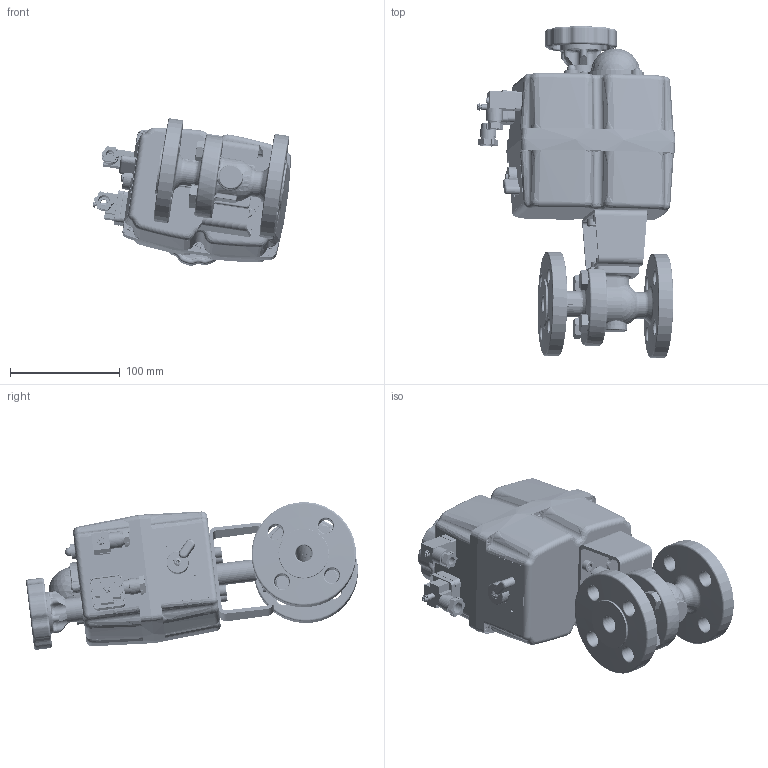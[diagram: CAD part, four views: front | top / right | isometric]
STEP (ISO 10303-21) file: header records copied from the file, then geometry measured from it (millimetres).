
FILE_DESCRIPTION((''),'2;1');
FILE_NAME('P:\CAD Daten\TA-Produkte\angetriebene Armaturen\Register 9\RB76000x\76000x015S20.stp','2024-07-03T13:55:48',('Gi'),(''),'Autodesk Inventor 2012','Autodesk Inventor 2012','');
FILE_SCHEMA(('CONFIG_CONTROL_DESIGN'));
Length unit declared in the file: millimetre
Products named in the file (1): 76000x015S20
Bounding box: 180.66 x 302.18 x 134.3 mm (x, y, z)
Volume: 14305 mm3; surface area: 330052.3 mm2
Topology: 51 solids, 56 shells, 3973 faces, 10246 edges, 6391 vertices
Faces by surface type: plane 1450, cylinder 1033, cone 582, torus 486, bspline 311, sphere 111
Full cylindrical faces by diameter (mm): 1.5 x10, 2.5 x5, 3 x46, 3.5 x13, 3.55 x8, 3.75 x2, 3.8 x1, 3.9 x8, 3.96 x8, 4 x32, 4.2 x2, 4.25 x2, 4.5 x8, 4.7 x4, 4.9 x2, 5 x9, 5.5 x4, 5.7 x3, 6 x7, 6.4 x4, 6.5 x7, 7 x12, 7.5 x7, 8 x9, 8.05 x1, 8.1 x1, 8.5 x4, 9 x6, 10 x11, 10.2 x1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
Entity records: 177315 total; most frequent: CARTESIAN_POINT 83225, DIRECTION 18941, ORIENTED_EDGE 17836, EDGE_CURVE 8918, AXIS2_PLACEMENT_3D 7721, VERTEX_POINT 6076, EDGE_LOOP 5181, FACE_OUTER_BOUND 3972
